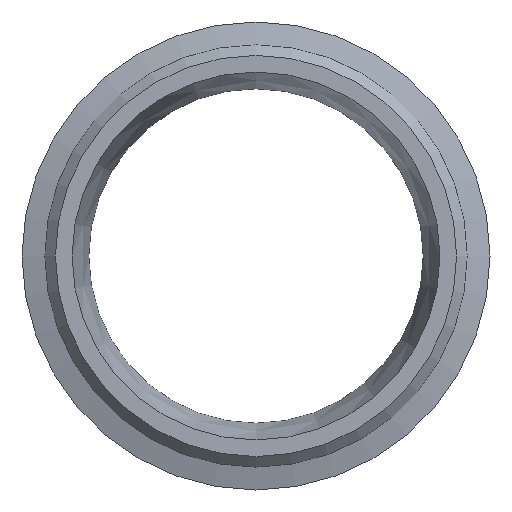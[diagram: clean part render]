
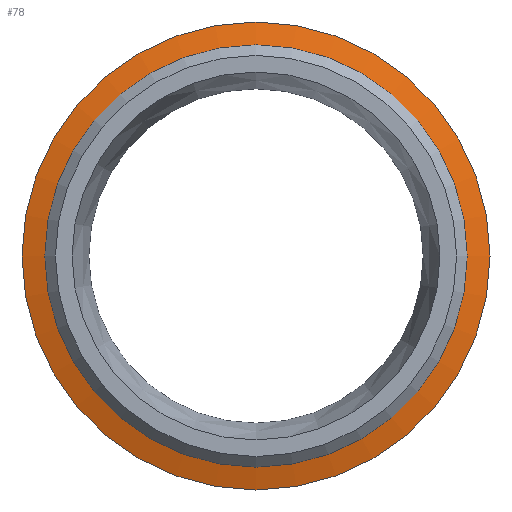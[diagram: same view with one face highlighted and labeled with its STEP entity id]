
A CAD part, left-side view. The second image highlights one B-rep face of the part: STEP entity #78.
In plain terms, the highlighted conical face has half-angle 75 degrees and reference radius 12.634 mm.
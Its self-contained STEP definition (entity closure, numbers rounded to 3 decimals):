
#78=ADVANCED_FACE('',(#97,#98),#99,.T.);
#97=FACE_OUTER_BOUND('',#133,.T.);
#98=FACE_BOUND('',#134,.T.);
#99=CONICAL_SURFACE('',#135,12.634,1.309);
#133=EDGE_LOOP('',(#175));
#134=EDGE_LOOP('',(#176));
#135=AXIS2_PLACEMENT_3D('',#177,#178,#179);
#175=ORIENTED_EDGE('',*,*,#224,.T.);
#176=ORIENTED_EDGE('',*,*,#223,.F.);
#177=CARTESIAN_POINT('',(0.634,0.0,0.0));
#178=DIRECTION('',(1.0,-0.0,0.0));
#179=DIRECTION('',(0.0,0.0,-1.0));
#223=EDGE_CURVE('',#238,#238,#239,.T.);
#224=EDGE_CURVE('',#240,#240,#241,.T.);
#238=VERTEX_POINT('',#262);
#239=CIRCLE('',#263,12.634);
#240=VERTEX_POINT('',#264);
#241=CIRCLE('',#265,14.0);
#262=CARTESIAN_POINT('',(0.634,0.0,12.634));
#263=AXIS2_PLACEMENT_3D('',#289,#290,#291);
#264=CARTESIAN_POINT('',(1.0,0.0,14.0));
#265=AXIS2_PLACEMENT_3D('',#292,#293,#294);
#289=CARTESIAN_POINT('',(0.634,0.0,0.0));
#290=DIRECTION('',(-1.0,0.0,0.0));
#291=DIRECTION('',(0.0,0.0,1.0));
#292=CARTESIAN_POINT('',(1.0,0.0,0.0));
#293=DIRECTION('',(-1.0,0.0,0.0));
#294=DIRECTION('',(0.0,0.0,1.0));
